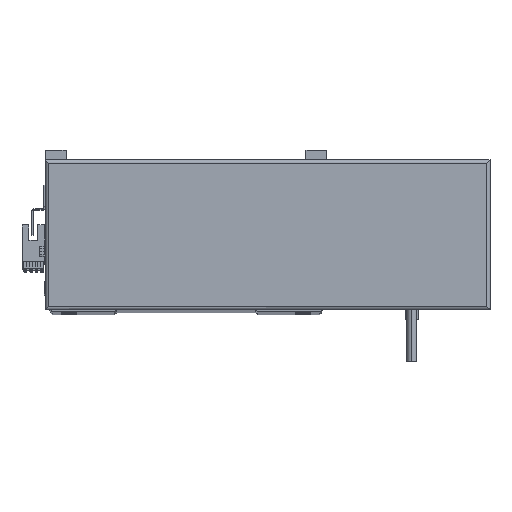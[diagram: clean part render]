
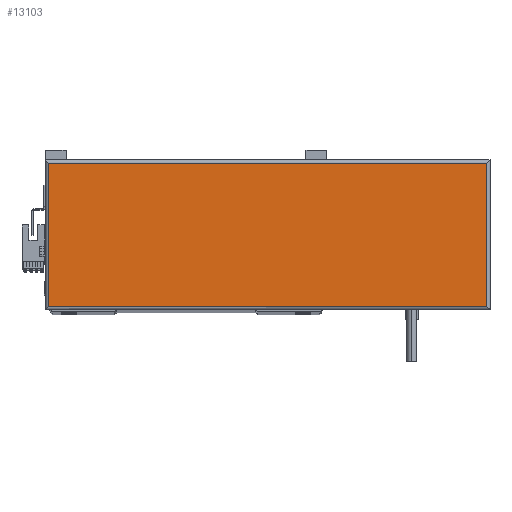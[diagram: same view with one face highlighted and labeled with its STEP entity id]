
A CAD part, top view. The second image highlights one B-rep face of the part: STEP entity #13103.
In plain terms, the highlighted planar face has unit normal (0, 0, 1).
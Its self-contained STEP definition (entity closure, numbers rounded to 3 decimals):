
#97 = VECTOR ( 'NONE', #8689, 1000. ) ;
#675 = LINE ( 'NONE', #12379, #7813 ) ;
#1228 = CARTESIAN_POINT ( 'NONE',  ( 265., 2., 44.8 ) ) ;
#1297 = LINE ( 'NONE', #8525, #97 ) ;
#2008 = EDGE_CURVE ( 'NONE', #36228, #36090, #675, .T. ) ;
#2578 = CARTESIAN_POINT ( 'NONE',  ( 265., 88., 44.8 ) ) ;
#4642 = CARTESIAN_POINT ( 'NONE',  ( 133.5, 45., 44.8 ) ) ;
#6272 = EDGE_LOOP ( 'NONE', ( #37749, #41814, #6418, #23475 ) ) ;
#6418 = ORIENTED_EDGE ( 'NONE', *, *, #2008, .T. ) ;
#6730 = VECTOR ( 'NONE', #33788, 1000. ) ;
#7813 = VECTOR ( 'NONE', #23926, 1000. ) ;
#8525 = CARTESIAN_POINT ( 'NONE',  ( 267., 2., 44.8 ) ) ;
#8689 = DIRECTION ( 'NONE',  ( 1., 0., 0. ) ) ;
#11765 = DIRECTION ( 'NONE',  ( 0., 0., 1. ) ) ;
#12006 = CARTESIAN_POINT ( 'NONE',  ( 0., 88., 44.8 ) ) ;
#12379 = CARTESIAN_POINT ( 'NONE',  ( 2., 0., 44.8 ) ) ;
#13103 = ADVANCED_FACE ( 'NONE', ( #29177 ), #27309, .T. ) ;
#13858 = LINE ( 'NONE', #19215, #6730 ) ;
#16912 = EDGE_CURVE ( 'NONE', #32642, #36228, #26521, .T. ) ;
#19215 = CARTESIAN_POINT ( 'NONE',  ( 265., 90., 44.8 ) ) ;
#21549 = EDGE_CURVE ( 'NONE', #22288, #32642, #13858, .T. ) ;
#22288 = VERTEX_POINT ( 'NONE', #1228 ) ;
#23475 = ORIENTED_EDGE ( 'NONE', *, *, #23596, .T. ) ;
#23596 = EDGE_CURVE ( 'NONE', #36090, #22288, #1297, .T. ) ;
#23926 = DIRECTION ( 'NONE',  ( 0., -1., 0. ) ) ;
#26521 = LINE ( 'NONE', #12006, #47768 ) ;
#27309 = PLANE ( 'NONE',  #31668 ) ;
#29177 = FACE_OUTER_BOUND ( 'NONE', #6272, .T. ) ;
#31668 = AXIS2_PLACEMENT_3D ( 'NONE', #4642, #11765, #42325 ) ;
#32642 = VERTEX_POINT ( 'NONE', #2578 ) ;
#33788 = DIRECTION ( 'NONE',  ( 0., 1., 0. ) ) ;
#36090 = VERTEX_POINT ( 'NONE', #48235 ) ;
#36228 = VERTEX_POINT ( 'NONE', #49063 ) ;
#37749 = ORIENTED_EDGE ( 'NONE', *, *, #21549, .T. ) ;
#41814 = ORIENTED_EDGE ( 'NONE', *, *, #16912, .T. ) ;
#42325 = DIRECTION ( 'NONE',  ( 1., 0., 0. ) ) ;
#46004 = DIRECTION ( 'NONE',  ( -1., 0., 0. ) ) ;
#47768 = VECTOR ( 'NONE', #46004, 1000. ) ;
#48235 = CARTESIAN_POINT ( 'NONE',  ( 2., 2., 44.8 ) ) ;
#49063 = CARTESIAN_POINT ( 'NONE',  ( 2., 88., 44.8 ) ) ;
